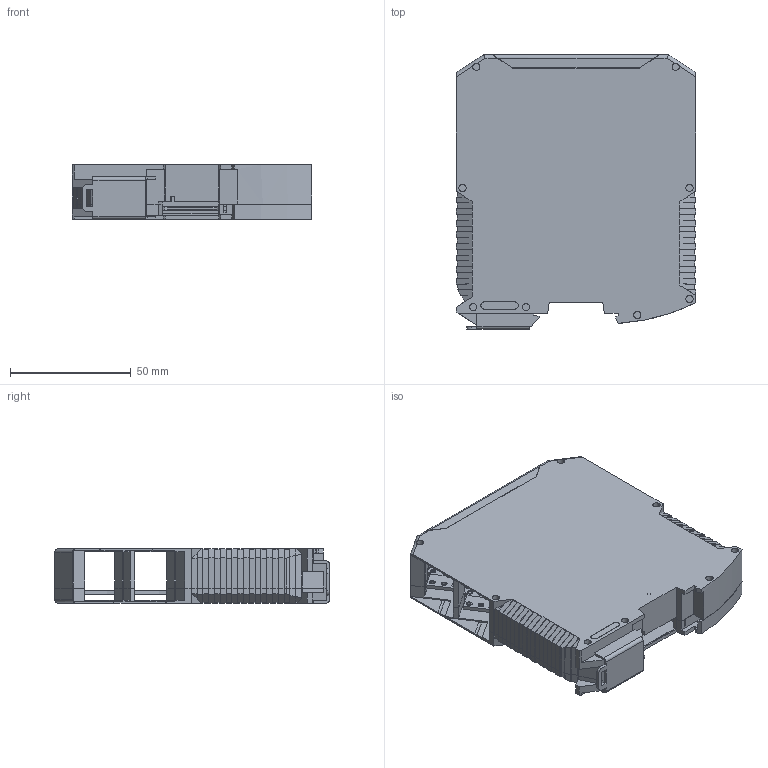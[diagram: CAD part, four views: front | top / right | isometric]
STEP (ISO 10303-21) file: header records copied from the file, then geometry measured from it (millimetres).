
FILE_DESCRIPTION(('OneSpaceDesigner STEP Export'),'2;1');
FILE_NAME('ME_MAX_22_5_G_2-2.stp','2004-10-26T 9:51:13',(''),(''),'OneSpace Designer STEP processor (Jan. 2003) for AP214(CD)(Solid Model)','OneSpace Designer 12.01C 26-Mar-2004 (C) CoCreate Software GmbH','');
FILE_SCHEMA(('AUTOMOTIVE_DESIGN_CC2 {1 2 10303 214 -1 1 5 1}'));
Length unit declared in the file: millimetre
Products named in the file (8): ME_MAX_GEH-L_G_2-2_H.Select; ME_MAX_22.5_GEH-R_G_2-2_H.Select; ME_MAX_22.5_DKL_H.Select; ME_MAX_22.5_PLATE; ME_MAX_LP-MKDSO_2-2__00268395; ME_MAX_LP-MSTBO_2-2__00286672; VAL-M_Fussriegel_H.Select; ME_MAX_22.5_G_2-2_H.Select
Assembly tree (7 placements, depth 2):
  ME_MAX_22.5_G_2-2_H.Select
    VAL-M_Fussriegel_H.Select
    ME_MAX_LP-MSTBO_2-2__00286672
    ME_MAX_LP-MKDSO_2-2__00268395
    ME_MAX_22.5_PLATE
    ME_MAX_22.5_DKL_H.Select
    ME_MAX_22.5_GEH-R_G_2-2_H.Select
    ME_MAX_GEH-L_G_2-2_H.Select
Bounding box: 99 x 113.6 x 22.6 mm (x, y, z)
Volume: 69633.3 mm3; surface area: 99247 mm2
Topology: 7 solids, 7 shells, 2079 faces, 5628 edges, 3708 vertices
Faces by surface type: plane 1549, cylinder 524, torus 4, cone 2
Entity records: 72805 total; most frequent: ORIENTED_EDGE 11256, CARTESIAN_POINT 11018, DIRECTION 9395, EDGE_CURVE 5628, VECTOR 4401, LINE 4401, VERTEX_POINT 3708, AXIS2_PLACEMENT_3D 2497
